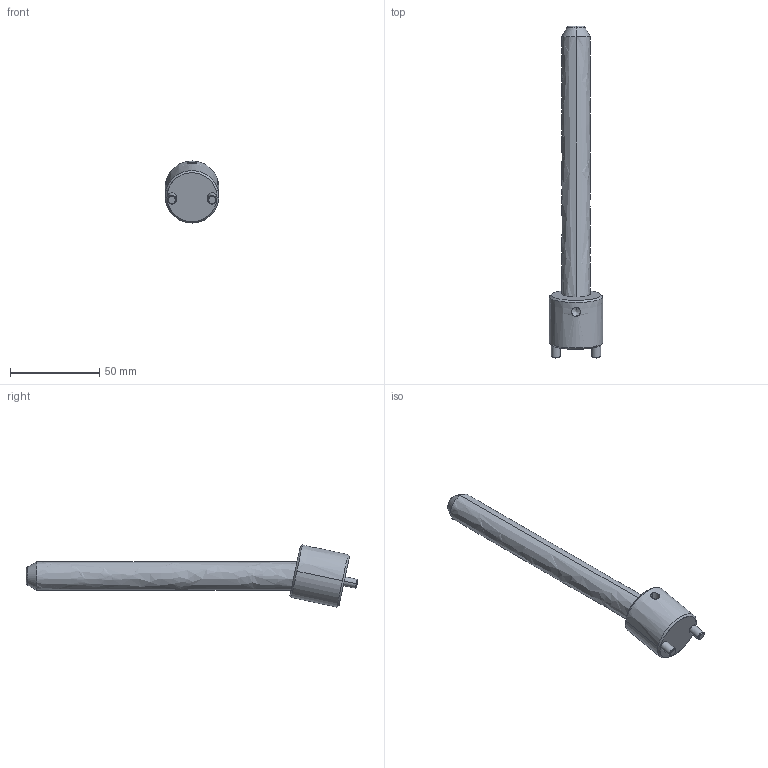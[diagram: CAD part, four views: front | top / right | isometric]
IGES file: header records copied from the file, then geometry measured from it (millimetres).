
Start section: START RECORD GO HERE.
Global section: file name: CI1216150.igs; native system: DASSAULT SYSTEMES CATIA V5 R20 - www.3ds.com; preprocessor: CATIA Version 5 Release 20 ; author: r.borello; organization: CFTORINO; date: 20190621.160501; units: millimetre
Bounding box: 30 x 185.76 x 34.75 mm (x, y, z)
Surface area: 14483.5 mm2 (no closed solid volume)
Topology: 0 solids, 0 shells, 39 faces, 162 edges, 160 vertices
Faces by surface type: revolution 32, plane 7
